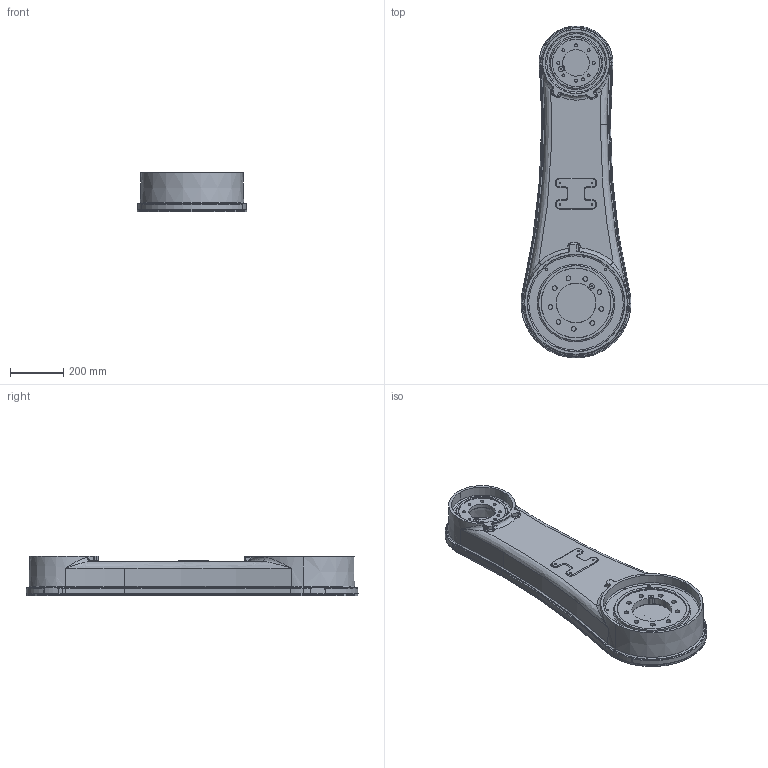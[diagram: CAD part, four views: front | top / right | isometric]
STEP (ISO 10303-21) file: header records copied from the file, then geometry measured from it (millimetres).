
FILE_DESCRIPTION (( 'STEP AP214' ), '1' );
FILE_NAME ('P-50iB-10L INNER ARM 900.STEP', '2021-02-18T02:16:06', ( '' ), ( '' ), 'SwSTEP 2.0', 'SolidWorks 2019', '' );
FILE_SCHEMA (( 'AUTOMOTIVE_DESIGN' ));
Length unit declared in the file: inch
Products named in the file (1): P-50iB-10L INNER ARM 900
Bounding box: 411.81 x 1244.33 x 147.94 mm (x, y, z)
Surface area: 1827427.7 mm2 (no closed solid volume)
Topology: 0 solids, 3 shells, 394 faces, 1361 edges, 973 vertices
Faces by surface type: cylinder 186, bspline 105, cone 67, plane 36
Entity records: 28961 total; most frequent: CARTESIAN_POINT 16664, ORIENTED_EDGE 2308, DIRECTION 2038, EDGE_CURVE 1357, VERTEX_POINT 973, AXIS2_PLACEMENT_3D 867, EDGE_LOOP 594, CIRCLE 577
